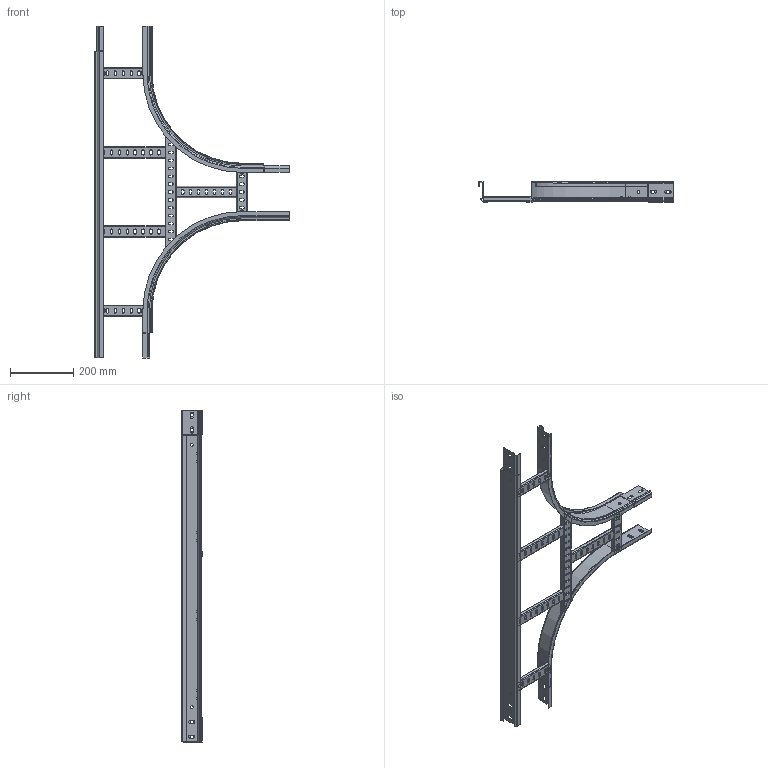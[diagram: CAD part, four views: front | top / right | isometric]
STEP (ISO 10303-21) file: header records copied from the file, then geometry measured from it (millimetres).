
FILE_DESCRIPTION (( 'STEP AP214' ), '1' );
FILE_NAME ('TEFER-300 150x60 GS.STEP', '2023-06-28T13:39:33', ( '' ), ( '' ), 'SwSTEP 2.0', 'SolidWorks 2022', '' );
FILE_SCHEMA (( 'AUTOMOTIVE_DESIGN' ));
Length unit declared in the file: millimetre
Products named in the file (7): FER_INTERIOR CP_Circular_Enchufable_60; RAT35_TE_especial 1_150; RAT35_TE_especial 2_150; FER_RECTO_TE_GS_150; RAT35_TE_especial 3_ZZZZ x YYYY; TEFER-300 150x60 GS; Travesaño RAT35 FER GS_150
Assembly tree (10 placements, depth 2):
  TEFER-300 150x60 GS
    FER_INTERIOR CP_Circular_Enchufable_60  x2
    FER_RECTO_TE_GS_150
    Travesaño RAT35 FER GS_150  x3
    RAT35_TE_especial 1_150
    RAT35_TE_especial 2_150  x2
    RAT35_TE_especial 3_ZZZZ x YYYY
Bounding box: 615.4 x 64.2 x 1050 mm (x, y, z)
Volume: 140002.9 mm3; surface area: 743457.7 mm2
Topology: 7 solids, 15 shells, 908 faces, 2270 edges, 1399 vertices
Faces by surface type: plane 505, cylinder 301, torus 72, cone 18, bspline 12
Entity records: 16888 total; most frequent: CARTESIAN_POINT 3455, DIRECTION 2800, ORIENTED_EDGE 2658, EDGE_CURVE 1353, AXIS2_PLACEMENT_3D 954, VECTOR 892, LINE 892, VERTEX_POINT 842
